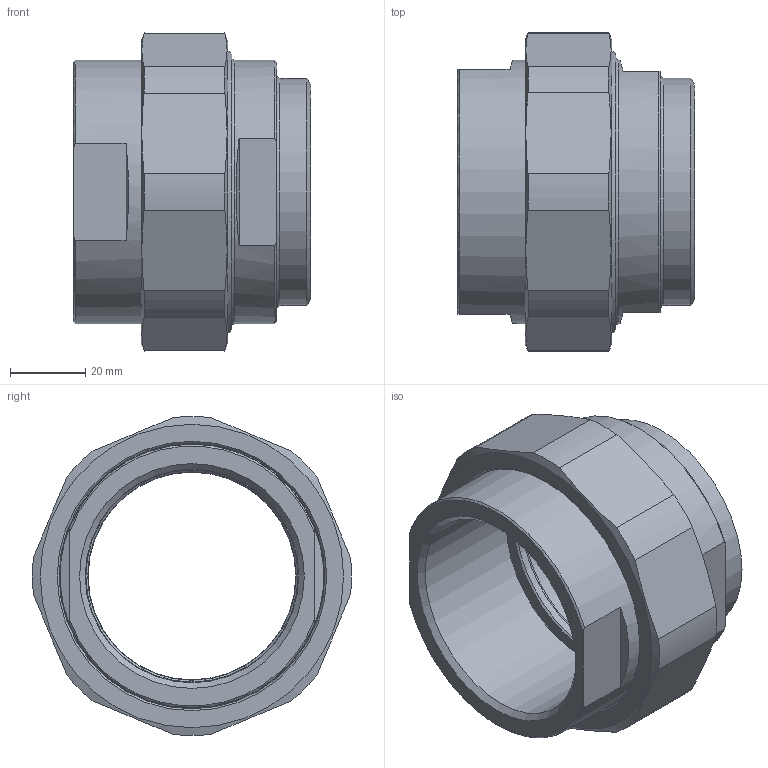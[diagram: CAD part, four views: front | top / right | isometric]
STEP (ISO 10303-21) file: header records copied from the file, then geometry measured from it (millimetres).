
FILE_DESCRIPTION(/* description */ (''),/* implementation_level */ '2;1');
FILE_NAME(/* name */ 'C:\Users\cad\Desktop\Zeichnungen neu von Ralph\Ganze Kupplungen\3D_Kupplung-R134-E-SG\3D_R134-E-SG-DN50-60.3_17101735.stp',/* time_stamp */ '2021-07-01T07:42:55+02:00',/* author */ ('cad'),/* organization */ (''),/* preprocessor_version */ 'ST-DEVELOPER v18.1',/* originating_system */ 'Autodesk Inventor 2022',/* authorisation */ '');
FILE_SCHEMA (('AUTOMOTIVE_DESIGN { 1 0 10303 214 3 1 1 }'));
Length unit declared in the file: millimetre
Products named in the file (4): 3D_R134-E-SG-DN50-60.3_17101735; 3D_R134-M-DN50_171011635; 3D_R134-SG-60.3_171011535; 3D_R134-E-DN50-DN50_171011035
Assembly tree (3 placements, depth 2):
  3D_R134-E-SG-DN50-60.3_17101735
    3D_R134-M-DN50_171011635
    3D_R134-SG-60.3_171011535
    3D_R134-E-DN50-DN50_171011035
Bounding box: 63 x 84.67 x 84.64 mm (x, y, z)
Volume: 109776.3 mm3; surface area: 46149.5 mm2
Topology: 3 solids, 3 shells, 75 faces, 183 edges, 120 vertices
Faces by surface type: plane 28, cone 20, cylinder 18, torus 9
Full cylindrical faces by diameter (mm): 55.1 x1, 55.3 x1, 56.656 x1, 60.3 x1, 70 x2, 70.5 x1, 74 x1, 74.376 x1, 75.85 x1
Entity records: 2381 total; most frequent: CARTESIAN_POINT 433, DIRECTION 424, ORIENTED_EDGE 366, EDGE_CURVE 183, AXIS2_PLACEMENT_3D 183, VERTEX_POINT 120, CIRCLE 97, EDGE_LOOP 87
